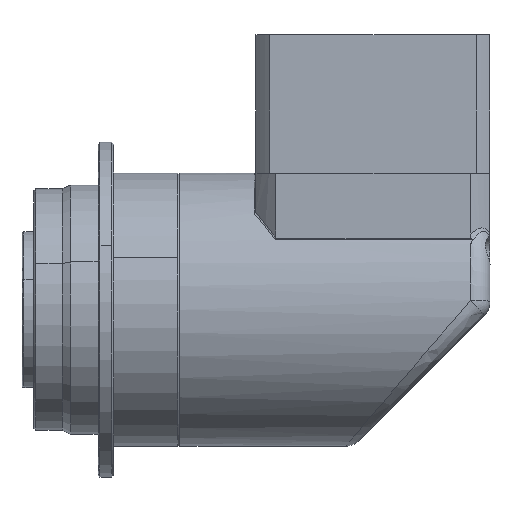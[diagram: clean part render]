
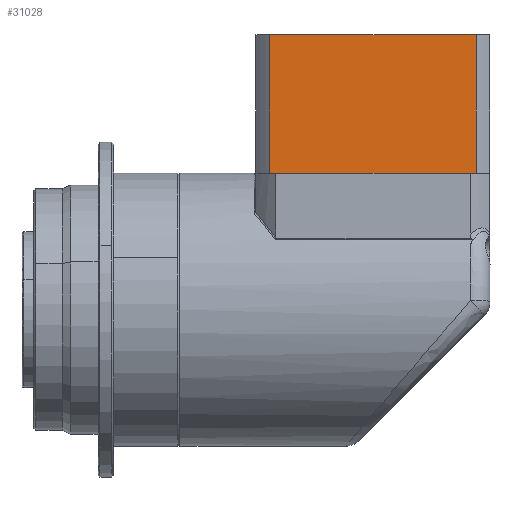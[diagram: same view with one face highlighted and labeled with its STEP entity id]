
A CAD part, front view. The second image highlights one B-rep face of the part: STEP entity #31028.
In plain terms, the highlighted planar face has unit normal (0, -1, 0) as drawn and (0, 0, 1) by its records, which use the part's own axes.
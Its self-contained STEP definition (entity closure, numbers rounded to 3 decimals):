
#423 = FACE_OUTER_BOUND ( 'NONE', #8411, .T. ) ;
#1845 = VERTEX_POINT ( 'NONE', #5248 ) ;
#1910 = ORIENTED_EDGE ( 'NONE', *, *, #3369, .F. ) ;
#2003 = ORIENTED_EDGE ( 'NONE', *, *, #27461, .T. ) ;
#2271 = CARTESIAN_POINT ( 'NONE',  ( 0., -26.458, 30. ) ) ;
#2504 = ORIENTED_EDGE ( 'NONE', *, *, #6800, .T. ) ;
#3369 = EDGE_CURVE ( 'NONE', #1845, #15312, #18808, .T. ) ;
#3738 = VERTEX_POINT ( 'NONE', #2271 ) ;
#4699 = LINE ( 'NONE', #14902, #18248 ) ;
#5248 = CARTESIAN_POINT ( 'NONE',  ( 35.5, 26.458, 30. ) ) ;
#5381 = DIRECTION ( 'NONE',  ( 0., 0., 1. ) ) ;
#6800 = EDGE_CURVE ( 'NONE', #3738, #15312, #4699, .T. ) ;
#8411 = EDGE_LOOP ( 'NONE', ( #2003, #10098, #2504, #1910 ) ) ;
#9085 = LINE ( 'NONE', #31846, #12555 ) ;
#9649 = CARTESIAN_POINT ( 'NONE',  ( 35.5, -26.458, 30. ) ) ;
#10098 = ORIENTED_EDGE ( 'NONE', *, *, #30878, .T. ) ;
#10352 = VECTOR ( 'NONE', #20109, 1000. ) ;
#12300 = DIRECTION ( 'NONE',  ( 0., -1., 0. ) ) ;
#12555 = VECTOR ( 'NONE', #17008, 1000. ) ;
#13123 = DIRECTION ( 'NONE',  ( 1., 0., 0. ) ) ;
#14902 = CARTESIAN_POINT ( 'NONE',  ( -43.353, -26.458, 30. ) ) ;
#15262 = VECTOR ( 'NONE', #12300, 1000. ) ;
#15312 = VERTEX_POINT ( 'NONE', #9649 ) ;
#16349 = CARTESIAN_POINT ( 'NONE',  ( 35.5, -30., 30. ) ) ;
#17008 = DIRECTION ( 'NONE',  ( -1., 0., 0. ) ) ;
#18248 = VECTOR ( 'NONE', #29585, 1000. ) ;
#18808 = LINE ( 'NONE', #16349, #10352 ) ;
#20109 = DIRECTION ( 'NONE',  ( 0., -1., 0. ) ) ;
#20845 = PLANE ( 'NONE',  #30539 ) ;
#21098 = VERTEX_POINT ( 'NONE', #31602 ) ;
#27461 = EDGE_CURVE ( 'NONE', #1845, #21098, #9085, .T. ) ;
#27477 = CARTESIAN_POINT ( 'NONE',  ( 0., -30., 30. ) ) ;
#28288 = CARTESIAN_POINT ( 'NONE',  ( 0., -30., 30. ) ) ;
#29585 = DIRECTION ( 'NONE',  ( 1., 0., 0. ) ) ;
#30539 = AXIS2_PLACEMENT_3D ( 'NONE', #28288, #5381, #13123 ) ;
#30878 = EDGE_CURVE ( 'NONE', #21098, #3738, #32264, .T. ) ;
#31028 = ADVANCED_FACE ( 'NONE', ( #423 ), #20845, .T. ) ;
#31602 = CARTESIAN_POINT ( 'NONE',  ( 0., 26.458, 30. ) ) ;
#31846 = CARTESIAN_POINT ( 'NONE',  ( -43.353, 26.458, 30. ) ) ;
#32264 = LINE ( 'NONE', #27477, #15262 ) ;
